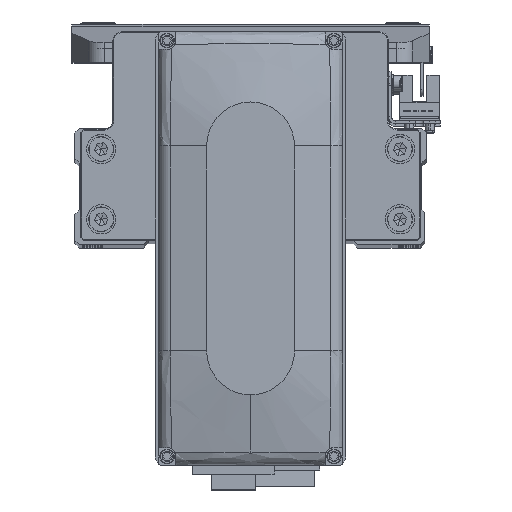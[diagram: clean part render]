
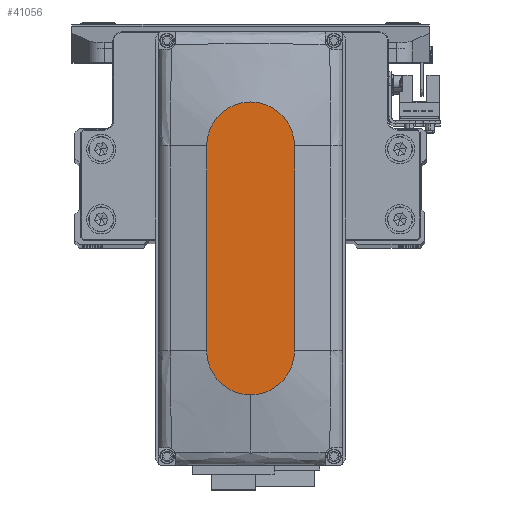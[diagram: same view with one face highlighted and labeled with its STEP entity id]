
A CAD part, top view. The second image highlights one B-rep face of the part: STEP entity #41056.
In plain terms, the highlighted planar face has unit normal (0, 0, 1).
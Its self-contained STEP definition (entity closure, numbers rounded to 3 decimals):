
#343 = EDGE_CURVE ( 'NONE', #43613, #2817, #28740, .T. ) ;
#1457 = DIRECTION ( 'NONE',  ( 1., 0., 0. ) ) ;
#2063 = CARTESIAN_POINT ( 'NONE',  ( 50., 0., 35. ) ) ;
#2706 = AXIS2_PLACEMENT_3D ( 'NONE', #39441, #8109, #22044 ) ;
#2817 = VERTEX_POINT ( 'NONE', #2063 ) ;
#3425 = EDGE_CURVE ( 'NONE', #43062, #43613, #3955, .T. ) ;
#3955 = LINE ( 'NONE', #17898, #34524 ) ;
#6464 = DIRECTION ( 'NONE',  ( 0., 0., 1. ) ) ;
#7551 = LINE ( 'NONE', #21501, #10987 ) ;
#8109 = DIRECTION ( 'NONE',  ( 0., 0., 1. ) ) ;
#10971 = CARTESIAN_POINT ( 'NONE',  ( 35., 0., 35. ) ) ;
#10987 = VECTOR ( 'NONE', #35446, 1000. ) ;
#11389 = CARTESIAN_POINT ( 'NONE',  ( 35., -15., 35. ) ) ;
#11550 = FACE_OUTER_BOUND ( 'NONE', #35916, .T. ) ;
#14114 = VERTEX_POINT ( 'NONE', #33789 ) ;
#14606 = CIRCLE ( 'NONE', #40177, 15. ) ;
#14840 = CIRCLE ( 'NONE', #40414, 15. ) ;
#15567 = ORIENTED_EDGE ( 'NONE', *, *, #343, .T. ) ;
#17898 = CARTESIAN_POINT ( 'NONE',  ( -35., -15., 35. ) ) ;
#18723 = ORIENTED_EDGE ( 'NONE', *, *, #26122, .T. ) ;
#18808 = CARTESIAN_POINT ( 'NONE',  ( -35., 0., 35. ) ) ;
#20406 = DIRECTION ( 'NONE',  ( 1., 0., 0. ) ) ;
#21501 = CARTESIAN_POINT ( 'NONE',  ( -35., 15., 35. ) ) ;
#22044 = DIRECTION ( 'NONE',  ( 1., 0., 0. ) ) ;
#24884 = DIRECTION ( 'NONE',  ( 0., 0., 1. ) ) ;
#25125 = AXIS2_PLACEMENT_3D ( 'NONE', #37793, #6464, #20406 ) ;
#25463 = PLANE ( 'NONE',  #2706 ) ;
#26122 = EDGE_CURVE ( 'NONE', #28810, #43062, #14606, .T. ) ;
#26235 = CARTESIAN_POINT ( 'NONE',  ( -35., 15., 35. ) ) ;
#26466 = EDGE_CURVE ( 'NONE', #14114, #28810, #7551, .T. ) ;
#28552 = ORIENTED_EDGE ( 'NONE', *, *, #26466, .T. ) ;
#28740 = CIRCLE ( 'NONE', #25125, 15. ) ;
#28810 = VERTEX_POINT ( 'NONE', #26235 ) ;
#29652 = ORIENTED_EDGE ( 'NONE', *, *, #3425, .T. ) ;
#31105 = CARTESIAN_POINT ( 'NONE',  ( -35., -15., 35. ) ) ;
#31831 = DIRECTION ( 'NONE',  ( 1., 0., 0. ) ) ;
#32746 = DIRECTION ( 'NONE',  ( 0., 0., 1. ) ) ;
#33789 = CARTESIAN_POINT ( 'NONE',  ( 35., 15., 35. ) ) ;
#34524 = VECTOR ( 'NONE', #31831, 1000. ) ;
#35446 = DIRECTION ( 'NONE',  ( -1., 0., 0. ) ) ;
#35916 = EDGE_LOOP ( 'NONE', ( #28552, #18723, #29652, #15567, #41565 ) ) ;
#37793 = CARTESIAN_POINT ( 'NONE',  ( 35., 0., 35. ) ) ;
#38856 = DIRECTION ( 'NONE',  ( 1., 0., 0. ) ) ;
#39441 = CARTESIAN_POINT ( 'NONE',  ( 0., 0., 35. ) ) ;
#40177 = AXIS2_PLACEMENT_3D ( 'NONE', #18808, #32746, #1457 ) ;
#40414 = AXIS2_PLACEMENT_3D ( 'NONE', #10971, #24884, #38856 ) ;
#41056 = ADVANCED_FACE ( 'NONE', ( #11550 ), #25463, .T. ) ;
#41565 = ORIENTED_EDGE ( 'NONE', *, *, #44336, .T. ) ;
#43062 = VERTEX_POINT ( 'NONE', #31105 ) ;
#43613 = VERTEX_POINT ( 'NONE', #11389 ) ;
#44336 = EDGE_CURVE ( 'NONE', #2817, #14114, #14840, .T. ) ;
